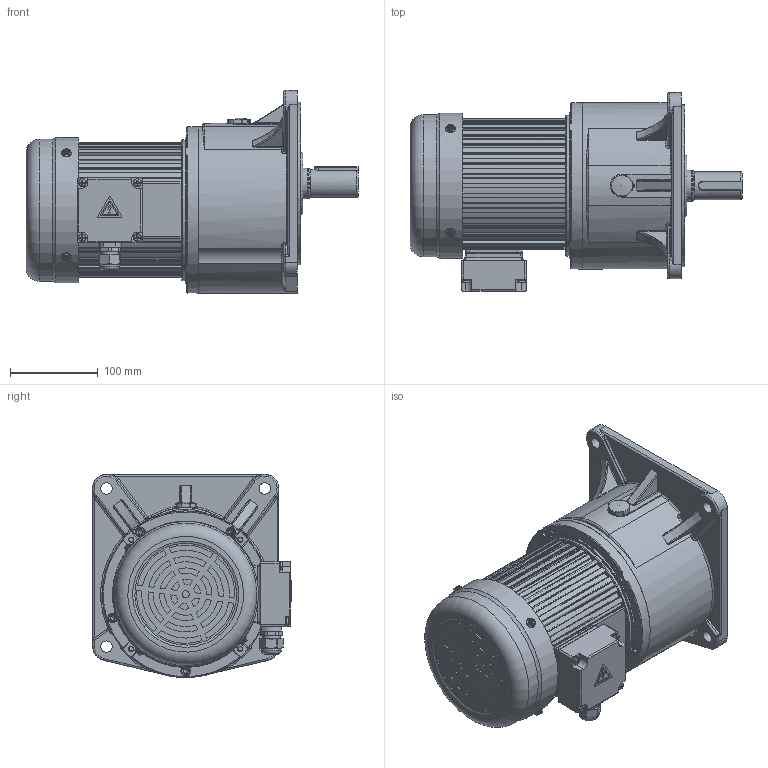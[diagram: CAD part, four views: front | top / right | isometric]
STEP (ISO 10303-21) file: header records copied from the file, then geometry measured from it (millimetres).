
FILE_DESCRIPTION(/* description */ (''),/* implementation_level */ '2;1');
FILE_NAME(/* name */ 'PST00001171_A0-小型交流减速电机-378.5_212.3_231-Φ32_69_K10-CV32-400-180S2-G1-LD_T1.stp',/* time_stamp */ '2025-04-23T08:22:30+08:00',/* author */ (''),/* organization */ (''),/* preprocessor_version */ 'ST-DEVELOPER v18.102',/* originating_system */ 'SIEMENS PLM Software NX 2027',/* authorisation */ '');
FILE_SCHEMA (('AP203_CONFIGURATION_CONTROLLED_3D_DESIGN_OF_MECHANICAL_PARTS_AND_ASSEMBLIES_MIM_LF { 1 0 10303 403 2 1 2}'));
Length unit declared in the file: millimetre
Products named in the file (1): A0_objects
Bounding box: 378.5 x 226.71 x 231.56 mm (x, y, z)
Volume: 4963982.1 mm3; surface area: 700446.4 mm2
Topology: 15 solids, 16 shells, 3236 faces, 8230 edges, 5106 vertices
Faces by surface type: plane 1250, cylinder 937, torus 394, cone 285, bspline 267, sphere 73, revolution 30
Full cylindrical faces by diameter (mm): 1 x1, 1.8 x1, 2 x1, 2.4 x1, 3 x2, 4 x1, 4.2 x12, 4.5 x1, 4.6 x4, 4.826 x2, 5 x14, 5.795 x5, 6.4 x4, 6.5 x5, 8 x1, 8.5 x4, 9 x4, 10 x5, 11 x10, 13 x4, 16 x1, 16.6 x1, 16.678 x1, 17 x2, 20 x3, 20.3 x1, 20.8 x1, 21 x1, 22.5 x1, 25 x1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
Entity records: 105680 total; most frequent: CARTESIAN_POINT 30504, DIRECTION 15665, ORIENTED_EDGE 15520, EDGE_CURVE 7760, AXIS2_PLACEMENT_3D 6271, VERTEX_POINT 4965, EDGE_LOOP 3670, ADVANCED_FACE 3234
